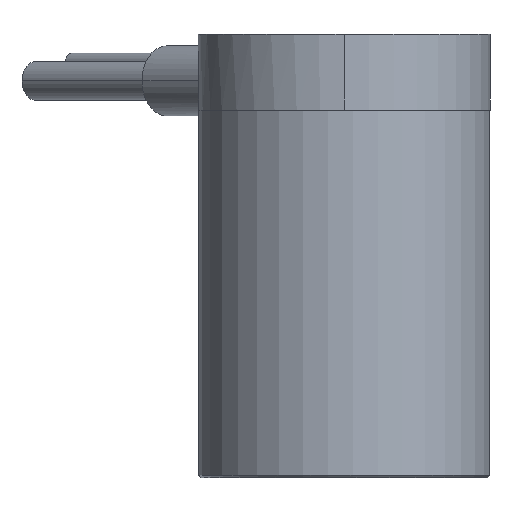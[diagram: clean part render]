
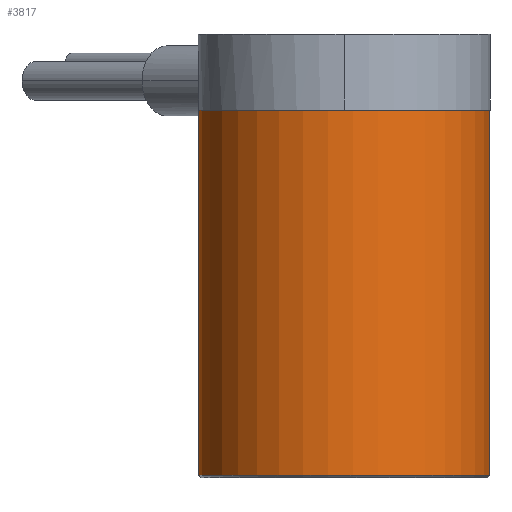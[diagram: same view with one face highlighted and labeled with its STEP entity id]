
A CAD part, left-side view. The second image highlights one B-rep face of the part: STEP entity #3817.
In plain terms, the highlighted cylindrical face has radius 12.5 mm (diameter 25 mm), a partial arc.
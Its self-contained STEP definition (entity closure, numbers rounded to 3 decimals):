
#452 = VERTEX_POINT ( 'NONE', #2082 ) ;
#512 = VERTEX_POINT ( 'NONE', #3352 ) ;
#656 = DIRECTION ( 'NONE',  ( -1., 0., 0. ) ) ;
#705 = DIRECTION ( 'NONE',  ( 0., 0., 1. ) ) ;
#834 = CARTESIAN_POINT ( 'NONE',  ( 12.5, 0., 31.5 ) ) ;
#948 = DIRECTION ( 'NONE',  ( 1., 0., 0. ) ) ;
#1023 = CIRCLE ( 'NONE', #1916, 12.5 ) ;
#1036 = CIRCLE ( 'NONE', #4123, 12.5 ) ;
#1655 = VECTOR ( 'NONE', #4896, 1000. ) ;
#1916 = AXIS2_PLACEMENT_3D ( 'NONE', #4465, #3843, #948 ) ;
#1991 = CARTESIAN_POINT ( 'NONE',  ( -12.5, 0., 31.5 ) ) ;
#2082 = CARTESIAN_POINT ( 'NONE',  ( 12.5, 0., 0.2 ) ) ;
#2103 = EDGE_CURVE ( 'NONE', #4947, #452, #1036, .T. ) ;
#2162 = ORIENTED_EDGE ( 'NONE', *, *, #4730, .F. ) ;
#2856 = VERTEX_POINT ( 'NONE', #1991 ) ;
#2868 = CYLINDRICAL_SURFACE ( 'NONE', #3561, 12.5 ) ;
#2987 = LINE ( 'NONE', #3044, #3057 ) ;
#3044 = CARTESIAN_POINT ( 'NONE',  ( -12.5, 0., 31.5 ) ) ;
#3057 = VECTOR ( 'NONE', #5081, 1000. ) ;
#3352 = CARTESIAN_POINT ( 'NONE',  ( 12.5, 0., 31.5 ) ) ;
#3561 = AXIS2_PLACEMENT_3D ( 'NONE', #3939, #4712, #656 ) ;
#3817 = ADVANCED_FACE ( 'NONE', ( #5181 ), #2868, .T. ) ;
#3825 = LINE ( 'NONE', #834, #1655 ) ;
#3843 = DIRECTION ( 'NONE',  ( 0., 0., 1. ) ) ;
#3855 = ORIENTED_EDGE ( 'NONE', *, *, #4963, .T. ) ;
#3865 = ORIENTED_EDGE ( 'NONE', *, *, #2103, .T. ) ;
#3939 = CARTESIAN_POINT ( 'NONE',  ( 0., 0., 31.5 ) ) ;
#3982 = CARTESIAN_POINT ( 'NONE',  ( 0., 0., 0.2 ) ) ;
#3998 = DIRECTION ( 'NONE',  ( 1., 0., 0. ) ) ;
#4123 = AXIS2_PLACEMENT_3D ( 'NONE', #3982, #705, #3998 ) ;
#4381 = ORIENTED_EDGE ( 'NONE', *, *, #4636, .F. ) ;
#4465 = CARTESIAN_POINT ( 'NONE',  ( 0., 0., 31.5 ) ) ;
#4636 = EDGE_CURVE ( 'NONE', #512, #452, #3825, .T. ) ;
#4712 = DIRECTION ( 'NONE',  ( 0., 0., -1. ) ) ;
#4730 = EDGE_CURVE ( 'NONE', #2856, #512, #1023, .T. ) ;
#4793 = EDGE_LOOP ( 'NONE', ( #4381, #2162, #3855, #3865 ) ) ;
#4896 = DIRECTION ( 'NONE',  ( 0., 0., -1. ) ) ;
#4947 = VERTEX_POINT ( 'NONE', #5099 ) ;
#4963 = EDGE_CURVE ( 'NONE', #2856, #4947, #2987, .T. ) ;
#5081 = DIRECTION ( 'NONE',  ( 0., 0., -1. ) ) ;
#5099 = CARTESIAN_POINT ( 'NONE',  ( -12.5, 0., 0.2 ) ) ;
#5181 = FACE_OUTER_BOUND ( 'NONE', #4793, .T. ) ;
